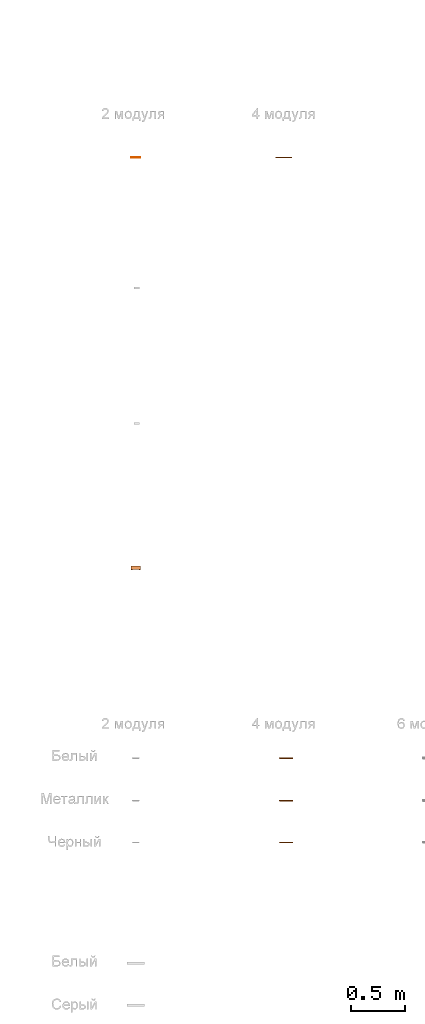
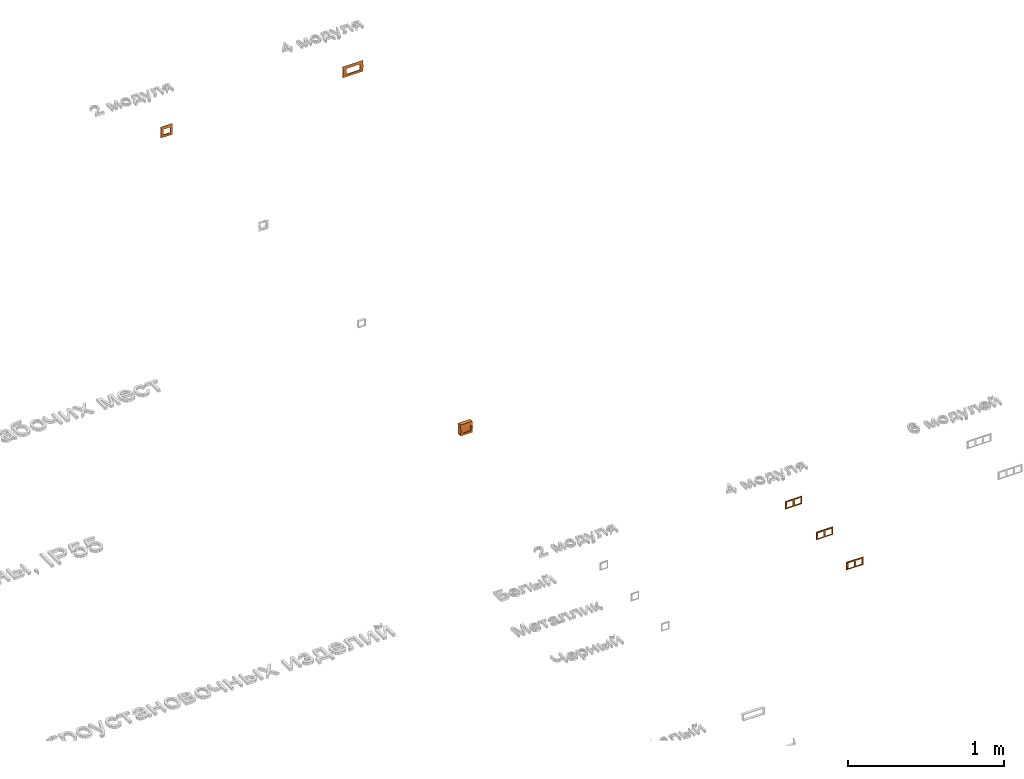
# One storey, part 84 of 87: 6 proxies.
"""IFC2X3 building model written with IfcOpenShell, lengths in millimetres."""

from ifc_helpers import new_model, entity, si_unit, converted_unit, derived_unit, direction, frame, origin, place, context, subcontext, project, spatial, faceted_brep, source, transform, mapped, material, material_list, type_object, type_shapes, element, save


model = new_model("IFC2X3")

# Units and contexts
model_context = context("Model", 3, precision=0.01, world=origin(), true_north=direction((6.12303176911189e-17, 1.0)))
body_context = subcontext(model_context, "Body", "Model", "MODEL_VIEW")
ifc_project = project(units=[si_unit("LENGTHUNIT", "METRE", prefix="MILLI"), si_unit("AREAUNIT", "SQUARE_METRE"), si_unit("VOLUMEUNIT", "CUBIC_METRE"), converted_unit("PLANEANGLEUNIT", "DEGREE", entity("IfcRatioMeasure", 0.0174532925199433), si_unit("PLANEANGLEUNIT", "RADIAN"), dimensions=[0, 0, 0, 0, 0, 0, 0]), si_unit("MASSUNIT", "GRAM", prefix="KILO"), derived_unit("MASSDENSITYUNIT", [(si_unit("MASSUNIT", "GRAM", prefix="KILO"), 1), (si_unit("LENGTHUNIT", "METRE"), -3)]), si_unit("TIMEUNIT", "SECOND"), si_unit("FREQUENCYUNIT", "HERTZ"), si_unit("THERMODYNAMICTEMPERATUREUNIT", "DEGREE_CELSIUS"), derived_unit("THERMALTRANSMITTANCEUNIT", [(si_unit("MASSUNIT", "GRAM", prefix="KILO"), 1), (si_unit("THERMODYNAMICTEMPERATUREUNIT", "KELVIN"), -1), (si_unit("TIMEUNIT", "SECOND"), -3)]), derived_unit("VOLUMETRICFLOWRATEUNIT", [(si_unit("LENGTHUNIT", "METRE"), 3), (si_unit("TIMEUNIT", "SECOND"), -1)]), si_unit("ELECTRICCURRENTUNIT", "AMPERE"), si_unit("ELECTRICVOLTAGEUNIT", "VOLT"), si_unit("POWERUNIT", "WATT"), si_unit("FORCEUNIT", "NEWTON", prefix="KILO"), si_unit("ILLUMINANCEUNIT", "LUX"), si_unit("LUMINOUSFLUXUNIT", "LUMEN"), si_unit("LUMINOUSINTENSITYUNIT", "CANDELA"), derived_unit("USERDEFINED", [(si_unit("MASSUNIT", "GRAM", prefix="KILO"), -1), (si_unit("LENGTHUNIT", "METRE"), -2), (si_unit("TIMEUNIT", "SECOND"), 3), (si_unit("LUMINOUSFLUXUNIT", "LUMEN"), 1)]), derived_unit("LINEARVELOCITYUNIT", [(si_unit("LENGTHUNIT", "METRE"), 1), (si_unit("TIMEUNIT", "SECOND"), -1)]), si_unit("PRESSUREUNIT", "PASCAL"), derived_unit("USERDEFINED", [(si_unit("LENGTHUNIT", "METRE"), -2), (si_unit("MASSUNIT", "GRAM", prefix="KILO"), 1), (si_unit("TIMEUNIT", "SECOND"), -2)])], contexts=[model_context])

# Site, building, storey
site_placement = place(None, origin())
site = spatial("IfcSite", under=ifc_project, at=site_placement, Name="Default", CompositionType="ELEMENT")
building_placement = place(site_placement, origin())
building = spatial("IfcBuilding", under=site, at=building_placement, Name="Наименование здания", CompositionType="ELEMENT")
storey_placement = place(building_placement, origin())
storey = spatial("IfcBuildingStorey", under=building, at=storey_placement, Name="Этаж 01", CompositionType="ELEMENT", Elevation=0.0)

# Proxies
ifc_material_1 = material(Name="DKC_Стекло")
ifc_material_2 = material(Name="DKC_Пластик_Белый")
ifc_material_list_1 = material_list([ifc_material_1, ifc_material_2])
ifc_material_list_2 = material_list([ifc_material_1, ifc_material_2])
building_element_proxy_type_1 = type_object("IfcBuildingElementProxyType", Name="Рамка для монтажа в стены, IP55_ILF_DKC", PredefinedType="NOTDEFINED", material=ifc_material_list_2)
shared_shape_1 = source(origin(), body_context, "Body", "Brep", [
    faceted_brep([(29.5, -29.9802164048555, -25.0), (29.5, -27.2236924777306, -25.0), (29.5, -27.2236924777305, 25.0), (29.5, -29.9802164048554, 25.0), (29.5, -32.0651017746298, 0.0), (-29.5000000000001, -29.9802164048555, 25.0), (-29.5000000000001, -27.2236924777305, 25.0), (-29.5000000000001, -27.2236924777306, -25.0), (-29.5000000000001, -29.9802164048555, -25.0), (-29.5000000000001, -32.0651017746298, 0.0)], [[[0, 1, 2, 3, 4]], [[5, 6, 7, 8, 9]], [[2, 1, 7, 6]], [[3, 2, 6, 5]], [[3, 5, 9, 4]], [[9, 8, 0, 4]], [[1, 0, 8, 7]]]),
    faceted_brep([(24.5000000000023, 0.0, 25.0), (24.5000000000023, -33.1512870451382, 25.0), (1.9871361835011e-06, -33.1512870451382, 25.0), (-24.5000000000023, -33.1512870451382, 25.0), (-24.5000000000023, 0.0, 25.0), (-28.035533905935, 0.0, 23.5355339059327), (-28.0416422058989, -33.3399943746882, 23.5294150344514), (-29.5000000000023, -33.7455936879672, 20.0), (-29.5000000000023, 0.0, 20.0), (-29.5000000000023, -34.7975644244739, 0.0), (-29.5000000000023, -33.7455936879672, -20.0), (-29.5000000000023, 0.0, -20.0), (-28.0402753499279, -33.3398238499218, -23.5307860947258), (-28.0355339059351, 0.0, -23.5355339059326), (-24.5000000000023, -33.1512870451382, -25.0), (-24.5000000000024, 0.0, -25.0), (-1.36108005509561e-06, -33.1512870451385, -25.0), (24.5000000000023, -33.1512870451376, -25.0), (24.5000000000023, 0.0, -25.0), (28.035533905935, 0.0, -23.5355339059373), (28.0416422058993, -33.3399943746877, -23.5294150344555), (29.5000000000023, -33.7455936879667, -20.0), (29.5000000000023, 0.0, -20.0), (29.5, -34.7975644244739, 0.0), (29.5000000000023, -33.7455936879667, 20.0), (29.5000000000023, 0.0, 20.0), (28.0416422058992, -33.3399943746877, 23.5294150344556), (28.0355339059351, 0.0, 23.5355339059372), (44.0, 0.0, -42.5000000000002), (44.0, 0.0, 42.4999999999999), (44.0, -30.0, 42.4999999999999), (44.0, -32.3987822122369, 21.2500000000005), (44.0, -34.7975644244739, 0.0), (44.0, -32.398782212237, -21.249999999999), (44.0, -30.0, -42.5000000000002), (-44.0, 0.0, 42.4999999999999), (-44.0, 0.0, -42.5000000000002), (-44.0, -30.0, -42.5000000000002), (-44.0, -32.398782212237, -21.249999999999), (-44.0, -34.7975644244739, 0.0), (-44.0, -32.3987822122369, 21.2500000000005), (-44.0, -30.0, 42.4999999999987), (0.0, -30.0, 42.4999999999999), (0.0, -30.0, -42.499999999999)], [[[0, 1, 2, 3, 4]], [[5, 4, 3]], [[6, 5, 3]], [[7, 8, 6]], [[5, 6, 8]], [[8, 7, 9, 10, 11]], [[12, 11, 10]], [[13, 11, 12]], [[14, 15, 13]], [[12, 14, 13]], [[15, 14, 16, 17, 18]], [[19, 18, 17]], [[20, 19, 17]], [[21, 22, 20]], [[19, 20, 22]], [[22, 21, 23, 24, 25]], [[26, 25, 24]], [[27, 25, 26]], [[1, 0, 27]], [[26, 1, 27]], [[28, 29, 30, 31, 32, 33, 34]], [[35, 36, 37, 38, 39, 40, 41]], [[28, 22, 25]], [[22, 28, 19]], [[18, 19, 28]], [[28, 15, 18]], [[25, 29, 28]], [[15, 28, 36]], [[13, 15, 36]], [[36, 11, 13]], [[11, 36, 8]], [[35, 8, 36]], [[8, 35, 5]], [[4, 5, 35]], [[4, 35, 29]], [[29, 25, 27]], [[27, 0, 29]], [[29, 0, 4]], [[29, 35, 41, 42, 30]], [[41, 6, 3]], [[41, 40, 6]], [[7, 39, 9]], [[23, 32, 24]], [[39, 7, 40]], [[9, 39, 10]], [[32, 23, 21]], [[43, 34, 17, 16, 14, 37]], [[42, 41, 3, 2, 1, 30]], [[6, 40, 7]], [[24, 31, 26]], [[1, 26, 30]], [[26, 31, 30]], [[24, 32, 31]], [[10, 38, 12]], [[37, 14, 12]], [[38, 37, 12]], [[20, 34, 33]], [[34, 20, 17]], [[21, 33, 32]], [[20, 33, 21]], [[10, 39, 38]], [[28, 34, 43, 37, 36]]]),
])
type_shapes(building_element_proxy_type_1, [shared_shape_1])
proxy_1_placement = place(storey_placement, frame((77296.5462784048, 86.5314500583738, 0.0)))
element("IfcBuildingElementProxy", 1, at=proxy_1_placement, inside=storey, type_object=building_element_proxy_type_1, material=ifc_material_list_1, Name="КНС_РамкаДляМонтажаВСтеныIP55_ILF_DKC:Рамка для монтажа в стены, IP55_ILF_DKC", ObjectType="Рамка для монтажа в стены, IP55_ILF_DKC", context=body_context, shape_type="MappedRepresentation", body=[
    mapped(shared_shape_1, transform((0.0, 0.0, 0.0), scale=1.0)),
])
building_element_proxy_type_2 = type_object("IfcBuildingElementProxyType", Name="2 модуля", PredefinedType="NOTDEFINED", material=ifc_material_2)
shared_shape_2 = source(origin(), body_context, "Body", "Brep", [
    faceted_brep([(43.0, 0.0, -43.0), (43.0, 0.0, 43.0), (43.0, -2.0, 43.0), (43.0, -4.30111318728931, 21.4999999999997), (43.0, -6.60222637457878, 0.0), (43.0, -4.30111318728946, -21.4999999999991), (43.0, -2.0, -43.0), (-43.0, 0.0, 43.0), (-43.0, 0.0, -43.0), (-43.0, -2.0, -43.0), (-43.0, -4.30111318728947, -21.499999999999), (-43.0, -6.60222637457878, 0.0), (-43.0, -4.30111318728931, 21.4999999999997), (-43.0, -2.0, 43.0), (-25.0, -6.60222637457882, 0.0), (25.0, -6.60222637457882, 0.0), (-25.0, -5.40513861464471, -22.0231856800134), (0.0, -2.0, -43.0), (25.0, -5.40513861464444, -22.0231856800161), (25.0, -5.4051386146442, 22.0231856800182), (-25.0, -5.4051386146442, 22.0231856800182), (1.90985069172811e-06, -2.0, 43.0), (25.0, 0.0, 22.0231856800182), (25.0, 0.0, -22.023185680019), (-25.0, 0.0, -22.023185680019), (-25.0, 0.0, 22.0231856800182)], [[[0, 1, 2, 3, 4, 5, 6]], [[7, 8, 9, 10, 11, 12, 13]], [[11, 14, 12]], [[4, 3, 15]], [[16, 9, 17, 6, 18]], [[15, 3, 19]], [[20, 19, 2, 21, 13]], [[2, 19, 3]], [[14, 10, 16]], [[12, 14, 20]], [[10, 14, 11]], [[5, 4, 15]], [[16, 10, 9]], [[18, 6, 5]], [[5, 15, 18]], [[20, 13, 12]], [[0, 6, 17, 9, 8]], [[2, 1, 7, 13, 21]], [[15, 19, 22, 23, 18]], [[14, 16, 24, 25, 20]], [[25, 22, 19, 20]], [[16, 18, 23, 24]], [[0, 23, 22]], [[23, 0, 24]], [[22, 1, 0]], [[8, 24, 0]], [[24, 8, 25]], [[7, 25, 8]], [[25, 7, 1]], [[1, 22, 25]]]),
])
type_shapes(building_element_proxy_type_2, [shared_shape_2])
proxy_2_placement = place(storey_placement, frame((77296.5462784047, 3894.44410758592, 0.0)))
element("IfcBuildingElementProxy", 2, at=proxy_2_placement, inside=storey, type_object=building_element_proxy_type_2, material=ifc_material_2, Name="КНС_КаркасыВСбореСРамкамиViva_ILF_DKC:2 модуля", ObjectType="2 модуля", context=body_context, shape_type="MappedRepresentation", body=[
    mapped(shared_shape_2, transform((0.0, 0.0, 0.0), scale=1.0)),
])
building_element_proxy_type_3 = type_object("IfcBuildingElementProxyType", Name="4 модуля", PredefinedType="NOTDEFINED", material=ifc_material_2)
shared_shape_3 = source(origin(), body_context, "Body", "Brep", [
    faceted_brep([(74.5, 0.0, -43.0), (74.5, 0.0, 43.0), (74.5, -2.0, 43.0), (74.5, -4.30111318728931, 21.4999999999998), (74.5, -6.60222637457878, 0.0), (74.5, -4.30111318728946, -21.499999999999), (74.5, -2.0, -43.0), (-74.5, 0.0, 43.0), (-74.5, 0.0, -43.0), (-74.5, -2.0, -43.0), (-74.5, -4.30111318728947, -21.499999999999), (-74.5, -6.60222637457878, 0.0), (-74.5, -4.30111318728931, 21.4999999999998), (-74.5, -2.0, 43.0), (-50.0, -6.60222637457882, 0.0), (50.0, -6.60222637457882, 0.0), (-50.0, -5.35258013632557, 22.4999999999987), (0.0, -2.0, 43.0), (0.0, -5.35258013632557, 22.4999999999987), (50.0, -5.35258013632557, 22.4999999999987), (-50.0, -5.35258013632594, -22.4999999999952), (50.0, -5.35258013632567, -22.4999999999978), (0.0, -2.0, -43.0), (0.0, -5.35258013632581, -22.4999999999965), (50.0, 0.0, 22.4999999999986), (50.0, 0.0, -22.4999999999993), (-50.0, 0.0, -22.4999999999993), (-50.0, 0.0, 22.4999999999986)], [[[0, 1, 2, 3, 4, 5, 6]], [[7, 8, 9, 10, 11, 12, 13]], [[12, 11, 14]], [[4, 3, 15]], [[11, 10, 14]], [[15, 5, 4]], [[12, 14, 16]], [[17, 13, 16, 18, 19, 2]], [[16, 13, 12]], [[2, 19, 3]], [[14, 10, 20]], [[21, 6, 5]], [[15, 3, 19]], [[9, 20, 10]], [[20, 9, 22, 6, 21, 23]], [[5, 15, 21]], [[0, 6, 22, 9, 8]], [[2, 1, 7, 13, 17]], [[15, 19, 24, 25, 21]], [[14, 20, 26, 27, 16]], [[27, 24, 19, 18, 16]], [[25, 26, 20, 23, 21]], [[0, 25, 24]], [[25, 0, 26]], [[24, 1, 0]], [[8, 26, 0]], [[26, 8, 27]], [[7, 27, 8]], [[27, 7, 1]], [[1, 24, 27]]]),
])
type_shapes(building_element_proxy_type_3, [shared_shape_3])
proxy_3_placement = place(storey_placement, frame((78672.659657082, 3894.44410758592, 0.0)))
element("IfcBuildingElementProxy", 3, at=proxy_3_placement, inside=storey, type_object=building_element_proxy_type_3, material=ifc_material_2, Name="КНС_КаркасыВСбореСРамкамиViva_ILF_DKC:4 модуля", ObjectType="4 модуля", context=body_context, shape_type="MappedRepresentation", body=[
    mapped(shared_shape_3, transform((0.0, 0.0, 0.0), scale=1.0)),
])
building_element_proxy_type_4 = type_object("IfcBuildingElementProxyType", Name="4 модуля", PredefinedType="NOTDEFINED", material=ifc_material_2)
shared_shape_4 = source(origin(), body_context, "Body", "Brep", [
    faceted_brep([(-50.8499999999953, -7.0, -22.4999999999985), (-50.8499999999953, -7.0, 22.4999999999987), (-54.3500000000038, -7.0, 22.4999999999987), (-54.3500000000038, -7.0, 1.57907206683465), (-54.3500000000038, -7.0, -22.4999999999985), (5.84999999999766, -7.0, -22.4999999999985), (5.84999999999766, -7.0, 22.4999999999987), (-5.84999999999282, -7.0, 22.4999999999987), (-5.84999999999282, -7.0, -22.4999999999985), (50.8500000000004, -7.0, -22.4999999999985), (54.349999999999, -7.0, -22.4999999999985), (54.349999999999, -7.0, -1.57907206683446), (54.349999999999, -7.0, 22.4999999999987), (50.8500000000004, -7.0, 22.4999999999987), (-5.84999999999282, 0.0, -22.4999999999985), (-50.8499999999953, 0.0, -22.4999999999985), (50.8500000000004, 0.0, -22.4999999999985), (5.84999999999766, 0.0, -22.4999999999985), (5.84999999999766, 0.0, 22.4999999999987), (50.8500000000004, 0.0, 22.4999999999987), (-50.8499999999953, 0.0, 22.4999999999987), (-5.84999999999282, 0.0, 22.4999999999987), (-63.6000000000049, 0.0, 31.7499999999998), (-37.4238301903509, 0.0, 31.7499999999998), (-63.6000000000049, 0.0, 7.67092970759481), (-11.247660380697, 0.0, 31.7499999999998), (26.1761698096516, 0.0, 31.7499999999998), (63.6000000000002, 0.0, 31.7499999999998), (63.6000000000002, 0.0, -7.67092970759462), (63.6000000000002, 0.0, -31.7499999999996), (37.4238301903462, 0.0, -31.7499999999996), (11.2476603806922, 0.0, -31.7499999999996), (-26.1761698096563, 0.0, -31.7499999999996), (-63.6000000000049, 0.0, -31.7499999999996), (56.4083186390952, -6.82449538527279, 24.5583186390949), (58.1134468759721, -6.39443641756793, 1.8764993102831), (58.363424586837, -6.30678207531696, 26.5134245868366), (56.4083186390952, -6.8244953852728, -24.5583186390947), (58.363424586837, -6.30678207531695, -26.5134245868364), (61.2439057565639, -4.66720571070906, -2.19219809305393e-07), (60.117280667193, -5.47282037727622, 28.2672806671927), (63.368083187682, -1.55764653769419, 31.5180831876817), (63.368083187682, -1.55764653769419, -31.5180831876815), (60.117280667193, -5.47282037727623, -28.2672806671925), (61.5819412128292, -4.36442861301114, -29.7319412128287), (62.6839620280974, -3.03718617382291, -30.8339620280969), (62.6839620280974, -3.03718617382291, 30.8339620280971), (61.5819412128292, -4.36442861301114, 29.7319412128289), (-26.5438310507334, -6.40444268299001, -26.2336177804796), (-60.1172806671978, -5.47282037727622, -28.2672806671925), (-30.1781136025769, -4.05593179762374, -30.0390270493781), (26.5438268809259, -6.40444259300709, -26.2336180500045), (-56.4083186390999, -6.8244953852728, -24.5583186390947), (29.5825901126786, -3.44207908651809, -30.5544395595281), (-61.5819412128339, -4.36442861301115, -29.7319412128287), (-62.6839620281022, -3.03718617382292, -30.8339620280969), (-58.3634245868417, -6.30678207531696, -26.5134245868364), (-63.3680831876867, -1.55764653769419, -31.5180831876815), (-1.45748487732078e-06, -4.90687769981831, -29.0969006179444), (-1.30844411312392e-06, -6.47253997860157, -26.0225989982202), (-58.1134468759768, -6.39443641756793, -1.87649931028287), (-56.4083186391, -6.82449538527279, 24.5583186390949), (-58.3634245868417, -6.30678207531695, 26.5134245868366), (-61.2439057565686, -4.66720571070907, 2.1922000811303e-07), (-63.3680831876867, -1.55764653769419, 31.5180831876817), (-60.1172806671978, -5.47282037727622, 28.2672806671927), (-61.581941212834, -4.36442861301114, 29.7319412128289), (-62.6839620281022, -3.03718617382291, 30.8339620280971), (26.5438310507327, -6.40444268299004, 26.2336177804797), (30.1781136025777, -4.05593179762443, 30.0390270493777), (-26.5438268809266, -6.40444259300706, 26.2336180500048), (-29.582590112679, -3.44207908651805, 30.5544395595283), (1.45748961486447e-06, -4.90687769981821, 29.0969006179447), (1.30844890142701e-06, -6.47253997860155, 26.0225989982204)], [[[0, 1, 2, 3, 4]], [[5, 6, 7, 8]], [[9, 10, 11, 12, 13]], [[8, 14, 15, 0]], [[9, 16, 17, 5]], [[6, 18, 19, 13]], [[1, 20, 21, 7]], [[17, 18, 6, 5]], [[19, 16, 9, 13]], [[22, 21, 20]], [[21, 22, 18]], [[22, 20, 15]], [[18, 22, 23]], [[15, 24, 22]], [[18, 23, 25]], [[18, 25, 26]], [[18, 26, 27]], [[18, 27, 19]], [[19, 27, 16]], [[16, 27, 28]], [[16, 28, 29]], [[17, 16, 29]], [[17, 29, 30]], [[17, 30, 31]], [[17, 31, 32]], [[17, 32, 33]], [[33, 15, 14]], [[15, 33, 24]], [[33, 14, 17]], [[21, 17, 14]], [[18, 17, 21]], [[15, 20, 1, 0]], [[21, 14, 8, 7]], [[34, 35, 36]], [[37, 38, 35]], [[39, 40, 35]], [[28, 27, 41]], [[42, 29, 28]], [[12, 11, 34]], [[37, 11, 10]], [[39, 43, 44]], [[37, 35, 11]], [[43, 39, 35]], [[39, 45, 28]], [[28, 46, 39]], [[28, 41, 46]], [[45, 42, 28]], [[35, 38, 43]], [[39, 44, 45]], [[47, 39, 46]], [[11, 35, 34]], [[40, 39, 47]], [[36, 35, 40]], [[48, 49, 50]], [[37, 51, 38]], [[10, 9, 37]], [[52, 0, 4]], [[53, 31, 30]], [[37, 9, 51]], [[43, 53, 44]], [[48, 0, 52]], [[9, 5, 51]], [[54, 55, 50]], [[8, 0, 48]], [[56, 49, 48]], [[44, 53, 45]], [[43, 51, 53]], [[57, 32, 50]], [[53, 30, 42]], [[58, 59, 48]], [[5, 59, 51]], [[54, 50, 49]], [[50, 32, 58]], [[50, 55, 57]], [[58, 51, 59]], [[52, 56, 48]], [[38, 51, 43]], [[59, 5, 8]], [[42, 30, 29]], [[57, 33, 32]], [[48, 50, 58]], [[58, 32, 31]], [[8, 48, 59]], [[53, 58, 31]], [[58, 53, 51]], [[42, 45, 53]], [[52, 60, 56]], [[61, 62, 60]], [[63, 49, 60]], [[24, 33, 57]], [[64, 22, 24]], [[4, 3, 52]], [[61, 3, 2]], [[63, 65, 66]], [[61, 60, 3]], [[65, 63, 60]], [[63, 67, 24]], [[24, 55, 63]], [[24, 57, 55]], [[67, 64, 24]], [[60, 62, 65]], [[63, 66, 67]], [[54, 63, 55]], [[3, 60, 52]], [[49, 63, 54]], [[56, 60, 49]], [[68, 40, 69]], [[61, 70, 62]], [[2, 1, 61]], [[34, 13, 12]], [[71, 25, 23]], [[61, 1, 70]], [[65, 71, 66]], [[68, 13, 34]], [[1, 7, 70]], [[47, 46, 69]], [[6, 13, 68]], [[36, 40, 68]], [[66, 71, 67]], [[65, 70, 71]], [[41, 26, 69]], [[71, 23, 64]], [[72, 73, 68]], [[7, 73, 70]], [[47, 69, 40]], [[69, 26, 72]], [[69, 46, 41]], [[72, 70, 73]], [[34, 36, 68]], [[62, 70, 65]], [[73, 7, 6]], [[64, 23, 22]], [[41, 27, 26]], [[68, 69, 72]], [[72, 26, 25]], [[6, 68, 73]], [[71, 72, 25]], [[72, 71, 70]], [[64, 67, 71]]]),
])
type_shapes(building_element_proxy_type_4, [shared_shape_4])
proxy_4_placement = place(storey_placement, frame((78696.5462784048, -1700.33504459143, 0.0)))
element("IfcBuildingElementProxy", 4, at=proxy_4_placement, inside=storey, type_object=building_element_proxy_type_4, material=ifc_material_2, Name="КНС_Рамка-суппортAvantiДляЭлектроустановочныхИзделий_ILF_DKC:4 модуля", ObjectType="4 модуля", context=body_context, shape_type="MappedRepresentation", body=[
    mapped(shared_shape_4, transform((0.0, 0.0, 0.0), scale=1.0)),
])
ifc_material_3 = material(Name="DKC_Пластик_СерыйМеталлик")
building_element_proxy_type_5 = type_object("IfcBuildingElementProxyType", Name="4 модуля", PredefinedType="NOTDEFINED", material=ifc_material_3)
shared_shape_5 = source(origin(), body_context, "Body", "Brep", [
    faceted_brep([(-50.8499999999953, -7.0, -22.4999999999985), (-50.8499999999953, -7.0, 22.4999999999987), (-54.3500000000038, -7.0, 22.4999999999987), (-54.3500000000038, -7.0, 1.57907206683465), (-54.3500000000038, -7.0, -22.4999999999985), (5.84999999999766, -7.0, -22.4999999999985), (5.84999999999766, -7.0, 22.4999999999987), (-5.84999999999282, -7.0, 22.4999999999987), (-5.84999999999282, -7.0, -22.4999999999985), (50.8500000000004, -7.0, -22.4999999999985), (54.349999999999, -7.0, -22.4999999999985), (54.349999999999, -7.0, -1.57907206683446), (54.349999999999, -7.0, 22.4999999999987), (50.8500000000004, -7.0, 22.4999999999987), (-5.84999999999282, 0.0, -22.4999999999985), (-50.8499999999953, 0.0, -22.4999999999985), (50.8500000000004, 0.0, -22.4999999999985), (5.84999999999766, 0.0, -22.4999999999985), (5.84999999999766, 0.0, 22.4999999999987), (50.8500000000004, 0.0, 22.4999999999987), (-50.8499999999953, 0.0, 22.4999999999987), (-5.84999999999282, 0.0, 22.4999999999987), (-63.6000000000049, 0.0, 31.7499999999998), (-37.4238301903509, 0.0, 31.7499999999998), (-63.6000000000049, 0.0, 7.67092970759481), (-11.247660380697, 0.0, 31.7499999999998), (26.1761698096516, 0.0, 31.7499999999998), (63.6000000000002, 0.0, 31.7499999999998), (63.6000000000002, 0.0, -7.67092970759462), (63.6000000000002, 0.0, -31.7499999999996), (37.4238301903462, 0.0, -31.7499999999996), (11.2476603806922, 0.0, -31.7499999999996), (-26.1761698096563, 0.0, -31.7499999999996), (-63.6000000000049, 0.0, -31.7499999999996), (56.4083186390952, -6.82449538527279, 24.5583186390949), (58.1134468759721, -6.39443641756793, 1.8764993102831), (58.363424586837, -6.30678207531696, 26.5134245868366), (56.4083186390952, -6.8244953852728, -24.5583186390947), (58.363424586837, -6.30678207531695, -26.5134245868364), (61.2439057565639, -4.66720571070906, -2.19219809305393e-07), (60.117280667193, -5.47282037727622, 28.2672806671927), (63.368083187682, -1.55764653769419, 31.5180831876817), (63.368083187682, -1.55764653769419, -31.5180831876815), (60.117280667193, -5.47282037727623, -28.2672806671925), (61.5819412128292, -4.36442861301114, -29.7319412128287), (62.6839620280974, -3.03718617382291, -30.8339620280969), (62.6839620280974, -3.03718617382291, 30.8339620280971), (61.5819412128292, -4.36442861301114, 29.7319412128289), (-26.5438310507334, -6.40444268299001, -26.2336177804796), (-60.1172806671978, -5.47282037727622, -28.2672806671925), (-30.1781136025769, -4.05593179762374, -30.0390270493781), (26.5438268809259, -6.40444259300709, -26.2336180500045), (-56.4083186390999, -6.8244953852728, -24.5583186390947), (29.5825901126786, -3.44207908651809, -30.5544395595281), (-61.5819412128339, -4.36442861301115, -29.7319412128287), (-62.6839620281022, -3.03718617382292, -30.8339620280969), (-58.3634245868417, -6.30678207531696, -26.5134245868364), (-63.3680831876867, -1.55764653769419, -31.5180831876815), (-1.45748487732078e-06, -4.90687769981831, -29.0969006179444), (-1.30844411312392e-06, -6.47253997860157, -26.0225989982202), (-58.1134468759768, -6.39443641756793, -1.87649931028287), (-56.4083186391, -6.82449538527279, 24.5583186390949), (-58.3634245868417, -6.30678207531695, 26.5134245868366), (-61.2439057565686, -4.66720571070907, 2.1922000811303e-07), (-63.3680831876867, -1.55764653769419, 31.5180831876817), (-60.1172806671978, -5.47282037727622, 28.2672806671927), (-61.581941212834, -4.36442861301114, 29.7319412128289), (-62.6839620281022, -3.03718617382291, 30.8339620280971), (26.5438310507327, -6.40444268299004, 26.2336177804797), (30.1781136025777, -4.05593179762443, 30.0390270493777), (-26.5438268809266, -6.40444259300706, 26.2336180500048), (-29.582590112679, -3.44207908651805, 30.5544395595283), (1.45748961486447e-06, -4.90687769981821, 29.0969006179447), (1.30844890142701e-06, -6.47253997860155, 26.0225989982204)], [[[0, 1, 2, 3, 4]], [[5, 6, 7, 8]], [[9, 10, 11, 12, 13]], [[8, 14, 15, 0]], [[9, 16, 17, 5]], [[6, 18, 19, 13]], [[1, 20, 21, 7]], [[17, 18, 6, 5]], [[19, 16, 9, 13]], [[22, 21, 20]], [[21, 22, 18]], [[22, 20, 15]], [[18, 22, 23]], [[15, 24, 22]], [[18, 23, 25]], [[18, 25, 26]], [[18, 26, 27]], [[18, 27, 19]], [[19, 27, 16]], [[16, 27, 28]], [[16, 28, 29]], [[17, 16, 29]], [[17, 29, 30]], [[17, 30, 31]], [[17, 31, 32]], [[17, 32, 33]], [[33, 15, 14]], [[15, 33, 24]], [[33, 14, 17]], [[21, 17, 14]], [[18, 17, 21]], [[15, 20, 1, 0]], [[21, 14, 8, 7]], [[34, 35, 36]], [[37, 38, 35]], [[39, 40, 35]], [[28, 27, 41]], [[42, 29, 28]], [[12, 11, 34]], [[37, 11, 10]], [[39, 43, 44]], [[37, 35, 11]], [[43, 39, 35]], [[39, 45, 28]], [[28, 46, 39]], [[28, 41, 46]], [[45, 42, 28]], [[35, 38, 43]], [[39, 44, 45]], [[47, 39, 46]], [[11, 35, 34]], [[40, 39, 47]], [[36, 35, 40]], [[48, 49, 50]], [[37, 51, 38]], [[10, 9, 37]], [[52, 0, 4]], [[53, 31, 30]], [[37, 9, 51]], [[43, 53, 44]], [[48, 0, 52]], [[9, 5, 51]], [[54, 55, 50]], [[8, 0, 48]], [[56, 49, 48]], [[44, 53, 45]], [[43, 51, 53]], [[57, 32, 50]], [[53, 30, 42]], [[58, 59, 48]], [[5, 59, 51]], [[54, 50, 49]], [[50, 32, 58]], [[50, 55, 57]], [[58, 51, 59]], [[52, 56, 48]], [[38, 51, 43]], [[59, 5, 8]], [[42, 30, 29]], [[57, 33, 32]], [[48, 50, 58]], [[58, 32, 31]], [[8, 48, 59]], [[53, 58, 31]], [[58, 53, 51]], [[42, 45, 53]], [[52, 60, 56]], [[61, 62, 60]], [[63, 49, 60]], [[24, 33, 57]], [[64, 22, 24]], [[4, 3, 52]], [[61, 3, 2]], [[63, 65, 66]], [[61, 60, 3]], [[65, 63, 60]], [[63, 67, 24]], [[24, 55, 63]], [[24, 57, 55]], [[67, 64, 24]], [[60, 62, 65]], [[63, 66, 67]], [[54, 63, 55]], [[3, 60, 52]], [[49, 63, 54]], [[56, 60, 49]], [[68, 40, 69]], [[61, 70, 62]], [[2, 1, 61]], [[34, 13, 12]], [[71, 25, 23]], [[61, 1, 70]], [[65, 71, 66]], [[68, 13, 34]], [[1, 7, 70]], [[47, 46, 69]], [[6, 13, 68]], [[36, 40, 68]], [[66, 71, 67]], [[65, 70, 71]], [[41, 26, 69]], [[71, 23, 64]], [[72, 73, 68]], [[7, 73, 70]], [[47, 69, 40]], [[69, 26, 72]], [[69, 46, 41]], [[72, 70, 73]], [[34, 36, 68]], [[62, 70, 65]], [[73, 7, 6]], [[64, 23, 22]], [[41, 27, 26]], [[68, 69, 72]], [[72, 26, 25]], [[6, 68, 73]], [[71, 72, 25]], [[72, 71, 70]], [[64, 67, 71]]]),
])
type_shapes(building_element_proxy_type_5, [shared_shape_5])
proxy_5_placement = place(storey_placement, frame((78696.5462784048, -2096.57288074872, 0.0)))
element("IfcBuildingElementProxy", 5, at=proxy_5_placement, inside=storey, type_object=building_element_proxy_type_5, material=ifc_material_3, Name="КНС_Рамка-суппортAvantiДляЭлектроустановочныхИзделий_ILF_DKC:4 модуля", ObjectType="4 модуля", context=body_context, shape_type="MappedRepresentation", body=[
    mapped(shared_shape_5, transform((0.0, 0.0, 0.0), scale=1.0)),
])
ifc_material_4 = material(Name="DKC_Пластик_Серо-черный")
building_element_proxy_type_6 = type_object("IfcBuildingElementProxyType", Name="4 модуля", PredefinedType="NOTDEFINED", material=ifc_material_4)
shared_shape_6 = source(origin(), body_context, "Body", "Brep", [
    faceted_brep([(-50.8499999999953, -7.0, -22.4999999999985), (-50.8499999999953, -7.0, 22.4999999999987), (-54.3500000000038, -7.0, 22.4999999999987), (-54.3500000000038, -7.0, 1.57907206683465), (-54.3500000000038, -7.0, -22.4999999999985), (5.84999999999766, -7.0, -22.4999999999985), (5.84999999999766, -7.0, 22.4999999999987), (-5.84999999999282, -7.0, 22.4999999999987), (-5.84999999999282, -7.0, -22.4999999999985), (50.8500000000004, -7.0, -22.4999999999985), (54.349999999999, -7.0, -22.4999999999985), (54.349999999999, -7.0, -1.57907206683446), (54.349999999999, -7.0, 22.4999999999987), (50.8500000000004, -7.0, 22.4999999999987), (-5.84999999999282, 0.0, -22.4999999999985), (-50.8499999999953, 0.0, -22.4999999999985), (50.8500000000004, 0.0, -22.4999999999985), (5.84999999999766, 0.0, -22.4999999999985), (5.84999999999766, 0.0, 22.4999999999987), (50.8500000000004, 0.0, 22.4999999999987), (-50.8499999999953, 0.0, 22.4999999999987), (-5.84999999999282, 0.0, 22.4999999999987), (-63.6000000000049, 0.0, 31.7499999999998), (-37.4238301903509, 0.0, 31.7499999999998), (-63.6000000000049, 0.0, 7.67092970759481), (-11.247660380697, 0.0, 31.7499999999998), (26.1761698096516, 0.0, 31.7499999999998), (63.6000000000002, 0.0, 31.7499999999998), (63.6000000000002, 0.0, -7.67092970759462), (63.6000000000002, 0.0, -31.7499999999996), (37.4238301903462, 0.0, -31.7499999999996), (11.2476603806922, 0.0, -31.7499999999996), (-26.1761698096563, 0.0, -31.7499999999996), (-63.6000000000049, 0.0, -31.7499999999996), (56.4083186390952, -6.82449538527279, 24.5583186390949), (58.1134468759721, -6.39443641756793, 1.8764993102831), (58.363424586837, -6.30678207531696, 26.5134245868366), (56.4083186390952, -6.8244953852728, -24.5583186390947), (58.363424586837, -6.30678207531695, -26.5134245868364), (61.2439057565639, -4.66720571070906, -2.19219809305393e-07), (60.117280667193, -5.47282037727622, 28.2672806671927), (63.368083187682, -1.55764653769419, 31.5180831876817), (63.368083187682, -1.55764653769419, -31.5180831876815), (60.117280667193, -5.47282037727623, -28.2672806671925), (61.5819412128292, -4.36442861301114, -29.7319412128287), (62.6839620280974, -3.03718617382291, -30.8339620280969), (62.6839620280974, -3.03718617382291, 30.8339620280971), (61.5819412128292, -4.36442861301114, 29.7319412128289), (-26.5438310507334, -6.40444268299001, -26.2336177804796), (-60.1172806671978, -5.47282037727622, -28.2672806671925), (-30.1781136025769, -4.05593179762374, -30.0390270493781), (26.5438268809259, -6.40444259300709, -26.2336180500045), (-56.4083186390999, -6.8244953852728, -24.5583186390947), (29.5825901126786, -3.44207908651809, -30.5544395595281), (-61.5819412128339, -4.36442861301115, -29.7319412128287), (-62.6839620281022, -3.03718617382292, -30.8339620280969), (-58.3634245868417, -6.30678207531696, -26.5134245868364), (-63.3680831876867, -1.55764653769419, -31.5180831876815), (-1.45748487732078e-06, -4.90687769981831, -29.0969006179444), (-1.30844411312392e-06, -6.47253997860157, -26.0225989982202), (-58.1134468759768, -6.39443641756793, -1.87649931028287), (-56.4083186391, -6.82449538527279, 24.5583186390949), (-58.3634245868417, -6.30678207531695, 26.5134245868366), (-61.2439057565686, -4.66720571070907, 2.1922000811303e-07), (-63.3680831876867, -1.55764653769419, 31.5180831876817), (-60.1172806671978, -5.47282037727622, 28.2672806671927), (-61.581941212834, -4.36442861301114, 29.7319412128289), (-62.6839620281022, -3.03718617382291, 30.8339620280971), (26.5438310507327, -6.40444268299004, 26.2336177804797), (30.1781136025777, -4.05593179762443, 30.0390270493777), (-26.5438268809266, -6.40444259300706, 26.2336180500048), (-29.582590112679, -3.44207908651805, 30.5544395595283), (1.45748961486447e-06, -4.90687769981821, 29.0969006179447), (1.30844890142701e-06, -6.47253997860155, 26.0225989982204)], [[[0, 1, 2, 3, 4]], [[5, 6, 7, 8]], [[9, 10, 11, 12, 13]], [[8, 14, 15, 0]], [[9, 16, 17, 5]], [[6, 18, 19, 13]], [[1, 20, 21, 7]], [[17, 18, 6, 5]], [[19, 16, 9, 13]], [[22, 21, 20]], [[21, 22, 18]], [[22, 20, 15]], [[18, 22, 23]], [[15, 24, 22]], [[18, 23, 25]], [[18, 25, 26]], [[18, 26, 27]], [[18, 27, 19]], [[19, 27, 16]], [[16, 27, 28]], [[16, 28, 29]], [[17, 16, 29]], [[17, 29, 30]], [[17, 30, 31]], [[17, 31, 32]], [[17, 32, 33]], [[33, 15, 14]], [[15, 33, 24]], [[33, 14, 17]], [[21, 17, 14]], [[18, 17, 21]], [[15, 20, 1, 0]], [[21, 14, 8, 7]], [[34, 35, 36]], [[37, 38, 35]], [[39, 40, 35]], [[28, 27, 41]], [[42, 29, 28]], [[12, 11, 34]], [[37, 11, 10]], [[39, 43, 44]], [[37, 35, 11]], [[43, 39, 35]], [[39, 45, 28]], [[28, 46, 39]], [[28, 41, 46]], [[45, 42, 28]], [[35, 38, 43]], [[39, 44, 45]], [[47, 39, 46]], [[11, 35, 34]], [[40, 39, 47]], [[36, 35, 40]], [[48, 49, 50]], [[37, 51, 38]], [[10, 9, 37]], [[52, 0, 4]], [[53, 31, 30]], [[37, 9, 51]], [[43, 53, 44]], [[48, 0, 52]], [[9, 5, 51]], [[54, 55, 50]], [[8, 0, 48]], [[56, 49, 48]], [[44, 53, 45]], [[43, 51, 53]], [[57, 32, 50]], [[53, 30, 42]], [[58, 59, 48]], [[5, 59, 51]], [[54, 50, 49]], [[50, 32, 58]], [[50, 55, 57]], [[58, 51, 59]], [[52, 56, 48]], [[38, 51, 43]], [[59, 5, 8]], [[42, 30, 29]], [[57, 33, 32]], [[48, 50, 58]], [[58, 32, 31]], [[8, 48, 59]], [[53, 58, 31]], [[58, 53, 51]], [[42, 45, 53]], [[52, 60, 56]], [[61, 62, 60]], [[63, 49, 60]], [[24, 33, 57]], [[64, 22, 24]], [[4, 3, 52]], [[61, 3, 2]], [[63, 65, 66]], [[61, 60, 3]], [[65, 63, 60]], [[63, 67, 24]], [[24, 55, 63]], [[24, 57, 55]], [[67, 64, 24]], [[60, 62, 65]], [[63, 66, 67]], [[54, 63, 55]], [[3, 60, 52]], [[49, 63, 54]], [[56, 60, 49]], [[68, 40, 69]], [[61, 70, 62]], [[2, 1, 61]], [[34, 13, 12]], [[71, 25, 23]], [[61, 1, 70]], [[65, 71, 66]], [[68, 13, 34]], [[1, 7, 70]], [[47, 46, 69]], [[6, 13, 68]], [[36, 40, 68]], [[66, 71, 67]], [[65, 70, 71]], [[41, 26, 69]], [[71, 23, 64]], [[72, 73, 68]], [[7, 73, 70]], [[47, 69, 40]], [[69, 26, 72]], [[69, 46, 41]], [[72, 70, 73]], [[34, 36, 68]], [[62, 70, 65]], [[73, 7, 6]], [[64, 23, 22]], [[41, 27, 26]], [[68, 69, 72]], [[72, 26, 25]], [[6, 68, 73]], [[71, 72, 25]], [[72, 71, 70]], [[64, 67, 71]]]),
])
type_shapes(building_element_proxy_type_6, [shared_shape_6])
proxy_6_placement = place(storey_placement, frame((78696.5462784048, -2484.10219303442, 0.0)))
element("IfcBuildingElementProxy", 6, at=proxy_6_placement, inside=storey, type_object=building_element_proxy_type_6, material=ifc_material_4, Name="КНС_Рамка-суппортAvantiДляЭлектроустановочныхИзделий_ILF_DKC:4 модуля", ObjectType="4 модуля", context=body_context, shape_type="MappedRepresentation", body=[
    mapped(shared_shape_6, transform((0.0, 0.0, 0.0), scale=1.0)),
])

save(model, "model.ifc")
